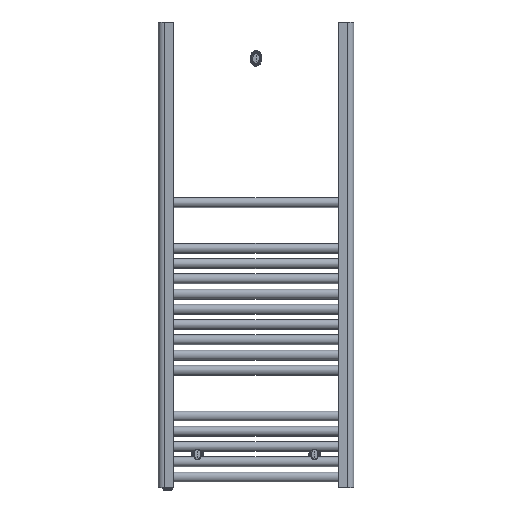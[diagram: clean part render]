
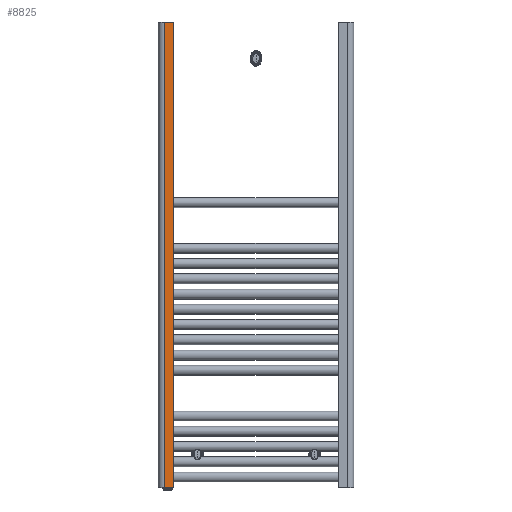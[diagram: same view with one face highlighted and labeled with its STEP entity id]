
A CAD part, front view. The second image highlights one B-rep face of the part: STEP entity #8825.
In plain terms, the highlighted planar face has unit normal (0, -1, 0).
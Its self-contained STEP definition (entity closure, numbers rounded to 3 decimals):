
#1615 = VECTOR ( 'NONE', #4961, 1000. ) ;
#1795 = PLANE ( 'NONE',  #11012 ) ;
#2085 = LINE ( 'NONE', #17686, #9486 ) ;
#2887 = CARTESIAN_POINT ( 'NONE',  ( -9., -15., 1190.5 ) ) ;
#3276 = CARTESIAN_POINT ( 'NONE',  ( 15., -15., 0.5 ) ) ;
#4441 = FACE_OUTER_BOUND ( 'NONE', #18230, .T. ) ;
#4542 = CARTESIAN_POINT ( 'NONE',  ( -24., -15., 1191. ) ) ;
#4830 = ORIENTED_EDGE ( 'NONE', *, *, #7853, .T. ) ;
#4961 = DIRECTION ( 'NONE',  ( 0., 0., 1. ) ) ;
#5758 = EDGE_CURVE ( 'NONE', #14179, #15159, #12497, .T. ) ;
#6361 = DIRECTION ( 'NONE',  ( 0., 0., -1. ) ) ;
#7089 = CARTESIAN_POINT ( 'NONE',  ( -9., -15., 0.5 ) ) ;
#7852 = ORIENTED_EDGE ( 'NONE', *, *, #5758, .T. ) ;
#7853 = EDGE_CURVE ( 'NONE', #18011, #14179, #17981, .T. ) ;
#8825 = ADVANCED_FACE ( 'NONE', ( #4441 ), #1795, .F. ) ;
#9486 = VECTOR ( 'NONE', #15947, 1000. ) ;
#9937 = CARTESIAN_POINT ( 'NONE',  ( 15., -15., 1191. ) ) ;
#10032 = LINE ( 'NONE', #9937, #1615 ) ;
#10220 = DIRECTION ( 'NONE',  ( -1., 0., 0. ) ) ;
#10521 = EDGE_CURVE ( 'NONE', #13313, #18011, #10032, .T. ) ;
#11012 = AXIS2_PLACEMENT_3D ( 'NONE', #4542, #16891, #11068 ) ;
#11068 = DIRECTION ( 'NONE',  ( 0., 0., 1. ) ) ;
#12226 = ORIENTED_EDGE ( 'NONE', *, *, #19619, .T. ) ;
#12497 = LINE ( 'NONE', #18719, #13307 ) ;
#12648 = VECTOR ( 'NONE', #10220, 1000. ) ;
#13307 = VECTOR ( 'NONE', #6361, 1000. ) ;
#13313 = VERTEX_POINT ( 'NONE', #3276 ) ;
#13814 = ORIENTED_EDGE ( 'NONE', *, *, #10521, .T. ) ;
#14179 = VERTEX_POINT ( 'NONE', #17674 ) ;
#15159 = VERTEX_POINT ( 'NONE', #7089 ) ;
#15947 = DIRECTION ( 'NONE',  ( 1., 0., 0. ) ) ;
#16891 = DIRECTION ( 'NONE',  ( 0., 1., 0. ) ) ;
#17463 = CARTESIAN_POINT ( 'NONE',  ( 15., -15., 1190.5 ) ) ;
#17674 = CARTESIAN_POINT ( 'NONE',  ( -9., -15., 1190.5 ) ) ;
#17686 = CARTESIAN_POINT ( 'NONE',  ( -24., -15., 0.5 ) ) ;
#17981 = LINE ( 'NONE', #2887, #12648 ) ;
#18011 = VERTEX_POINT ( 'NONE', #17463 ) ;
#18230 = EDGE_LOOP ( 'NONE', ( #13814, #4830, #7852, #12226 ) ) ;
#18719 = CARTESIAN_POINT ( 'NONE',  ( -9., -15., 1191. ) ) ;
#19619 = EDGE_CURVE ( 'NONE', #15159, #13313, #2085, .T. ) ;
